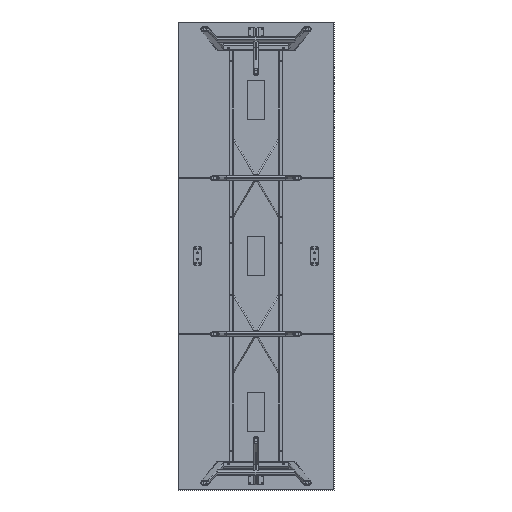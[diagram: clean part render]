
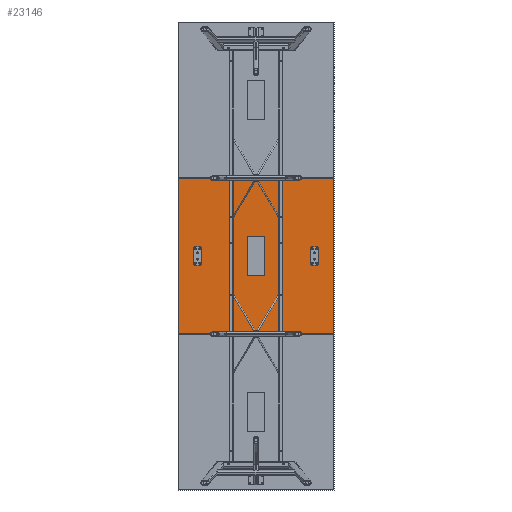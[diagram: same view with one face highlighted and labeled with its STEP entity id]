
A CAD part, front view. The second image highlights one B-rep face of the part: STEP entity #23146.
In plain terms, the highlighted planar face has unit normal (0, -1, 0).
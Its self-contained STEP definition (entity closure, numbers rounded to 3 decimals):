
#353=FACE_BOUND('',#3884,.T.);
#2450=FACE_OUTER_BOUND('',#3883,.T.);
#3883=EDGE_LOOP('',(#17352,#17353,#17354,#17355));
#3884=EDGE_LOOP('',(#17356,#17357,#17358,#17359));
#6585=LINE('',#37204,#8420);
#6588=LINE('',#37210,#8423);
#6591=LINE('',#37216,#8426);
#6594=LINE('',#37220,#8429);
#6600=LINE('',#37234,#8435);
#6602=LINE('',#37238,#8437);
#6603=LINE('',#37240,#8438);
#6604=LINE('',#37241,#8439);
#8420=VECTOR('',#28817,10.);
#8423=VECTOR('',#28822,10.);
#8426=VECTOR('',#28827,10.);
#8429=VECTOR('',#28832,10.);
#8435=VECTOR('',#28842,10.);
#8437=VECTOR('',#28846,10.);
#8438=VECTOR('',#28847,10.);
#8439=VECTOR('',#28848,10.);
#10335=VERTEX_POINT('',#37201);
#10336=VERTEX_POINT('',#37203);
#10338=VERTEX_POINT('',#37209);
#10340=VERTEX_POINT('',#37215);
#10345=VERTEX_POINT('',#37231);
#10346=VERTEX_POINT('',#37233);
#10347=VERTEX_POINT('',#37237);
#10348=VERTEX_POINT('',#37239);
#12896=EDGE_CURVE('',#10336,#10335,#6585,.T.);
#12899=EDGE_CURVE('',#10338,#10336,#6588,.T.);
#12902=EDGE_CURVE('',#10340,#10338,#6591,.T.);
#12905=EDGE_CURVE('',#10335,#10340,#6594,.T.);
#12911=EDGE_CURVE('',#10346,#10345,#6600,.T.);
#12913=EDGE_CURVE('',#10347,#10345,#6602,.T.);
#12914=EDGE_CURVE('',#10348,#10347,#6603,.T.);
#12915=EDGE_CURVE('',#10346,#10348,#6604,.T.);
#17352=ORIENTED_EDGE('',*,*,#12913,.F.);
#17353=ORIENTED_EDGE('',*,*,#12914,.F.);
#17354=ORIENTED_EDGE('',*,*,#12915,.F.);
#17355=ORIENTED_EDGE('',*,*,#12911,.T.);
#17356=ORIENTED_EDGE('',*,*,#12902,.T.);
#17357=ORIENTED_EDGE('',*,*,#12899,.T.);
#17358=ORIENTED_EDGE('',*,*,#12896,.T.);
#17359=ORIENTED_EDGE('',*,*,#12905,.T.);
#22300=PLANE('',#24955);
#23146=ADVANCED_FACE('',(#2450,#353),#22300,.T.);
#24955=AXIS2_PLACEMENT_3D('',#37236,#28844,#28845);
#28817=DIRECTION('',(0.,0.,1.));
#28822=DIRECTION('',(-1.,0.,0.));
#28827=DIRECTION('',(0.,0.,-1.));
#28832=DIRECTION('',(1.,0.,0.));
#28842=DIRECTION('',(-1.,0.,0.));
#28844=DIRECTION('center_axis',(0.,-1.,0.));
#28845=DIRECTION('ref_axis',(0.,0.,-1.));
#28846=DIRECTION('',(0.,0.,1.));
#28847=DIRECTION('',(-1.,0.,0.));
#28848=DIRECTION('',(0.,0.,-1.));
#37201=CARTESIAN_POINT('',(-66.6,700.,144.75));
#37203=CARTESIAN_POINT('',(-66.6,700.,-144.75));
#37204=CARTESIAN_POINT('',(-66.6,700.,127.625));
#37209=CARTESIAN_POINT('',(66.6,700.,-144.75));
#37210=CARTESIAN_POINT('',(33.3,700.,-144.75));
#37215=CARTESIAN_POINT('',(66.6,700.,144.75));
#37216=CARTESIAN_POINT('',(66.6,700.,272.375));
#37220=CARTESIAN_POINT('',(-33.3,700.,144.75));
#37231=CARTESIAN_POINT('',(-598.,700.,598.));
#37233=CARTESIAN_POINT('',(598.,700.,598.));
#37234=CARTESIAN_POINT('',(600.,700.,598.));
#37236=CARTESIAN_POINT('Origin',(0.,700.,400.));
#37237=CARTESIAN_POINT('',(-598.,700.,-598.));
#37238=CARTESIAN_POINT('',(-598.,700.,-99.));
#37239=CARTESIAN_POINT('',(598.,700.,-598.));
#37240=CARTESIAN_POINT('',(299.,700.,-598.));
#37241=CARTESIAN_POINT('',(598.,700.,900.));
